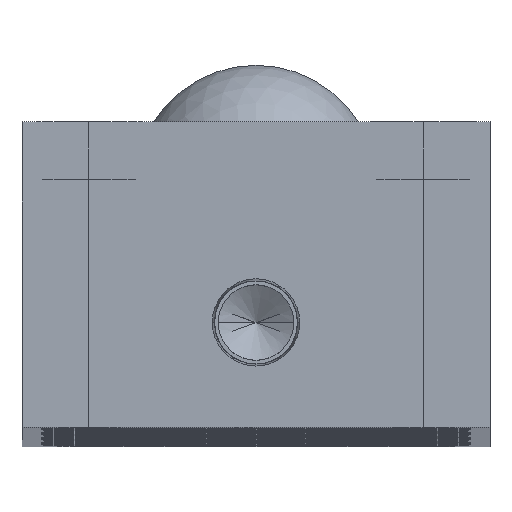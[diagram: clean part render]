
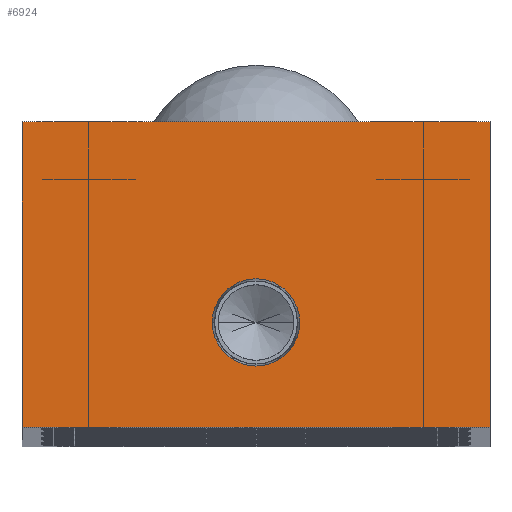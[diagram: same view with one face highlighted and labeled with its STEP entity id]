
A CAD part, top view. The second image highlights one B-rep face of the part: STEP entity #6924.
In plain terms, the highlighted planar face has unit normal (0, 0, 1).
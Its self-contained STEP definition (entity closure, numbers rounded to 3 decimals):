
#563 = CARTESIAN_POINT ( 'NONE',  ( 24.5, 32., 0. ) ) ;
#569 = VECTOR ( 'NONE', #13176, 1000. ) ;
#615 = CARTESIAN_POINT ( 'NONE',  ( 0., 11., 0. ) ) ;
#730 = LINE ( 'NONE', #12902, #21821 ) ;
#2049 = EDGE_CURVE ( 'NONE', #10966, #23015, #11648, .T. ) ;
#2327 = DIRECTION ( 'NONE',  ( 1., 0., 0. ) ) ;
#2709 = DIRECTION ( 'NONE',  ( 0., -1., 0. ) ) ;
#2727 = DIRECTION ( 'NONE',  ( 1., 0., 0. ) ) ;
#3852 = DIRECTION ( 'NONE',  ( -1., 0., 0. ) ) ;
#3853 = EDGE_LOOP ( 'NONE', ( #21563, #21620 ) ) ;
#4744 = EDGE_LOOP ( 'NONE', ( #12773, #16869, #22654, #12414 ) ) ;
#5177 = FACE_OUTER_BOUND ( 'NONE', #4744, .T. ) ;
#5239 = VERTEX_POINT ( 'NONE', #19616 ) ;
#6135 = AXIS2_PLACEMENT_3D ( 'NONE', #22746, #16491, #3852 ) ;
#6157 = LINE ( 'NONE', #563, #569 ) ;
#6583 = VERTEX_POINT ( 'NONE', #21541 ) ;
#6924 = ADVANCED_FACE ( 'NONE', ( #10745, #5177 ), #20627, .F. ) ;
#7226 = DIRECTION ( 'NONE',  ( -1., 0., 0. ) ) ;
#7377 = VECTOR ( 'NONE', #7226, 1000. ) ;
#7518 = EDGE_CURVE ( 'NONE', #9982, #5239, #13721, .T. ) ;
#7648 = CARTESIAN_POINT ( 'NONE',  ( -24.5, 32., 0. ) ) ;
#8008 = CARTESIAN_POINT ( 'NONE',  ( 24.5, 32., 0. ) ) ;
#9982 = VERTEX_POINT ( 'NONE', #27148 ) ;
#10453 = VERTEX_POINT ( 'NONE', #24788 ) ;
#10745 = FACE_BOUND ( 'NONE', #3853, .T. ) ;
#10966 = VERTEX_POINT ( 'NONE', #8008 ) ;
#11360 = DIRECTION ( 'NONE',  ( 0., 0., 1. ) ) ;
#11648 = LINE ( 'NONE', #15709, #7377 ) ;
#11787 = EDGE_CURVE ( 'NONE', #5239, #9982, #13358, .T. ) ;
#12414 = ORIENTED_EDGE ( 'NONE', *, *, #2049, .T. ) ;
#12773 = ORIENTED_EDGE ( 'NONE', *, *, #20310, .T. ) ;
#12902 = CARTESIAN_POINT ( 'NONE',  ( 24.5, 0., 0. ) ) ;
#13176 = DIRECTION ( 'NONE',  ( 0., 1., 0. ) ) ;
#13358 = CIRCLE ( 'NONE', #26248, 4.574 ) ;
#13721 = CIRCLE ( 'NONE', #17829, 4.574 ) ;
#15351 = DIRECTION ( 'NONE',  ( 0., 0., 1. ) ) ;
#15709 = CARTESIAN_POINT ( 'NONE',  ( -24.5, 32., 0. ) ) ;
#16338 = VECTOR ( 'NONE', #2709, 1000. ) ;
#16491 = DIRECTION ( 'NONE',  ( 0., 0., -1. ) ) ;
#16869 = ORIENTED_EDGE ( 'NONE', *, *, #22277, .T. ) ;
#17829 = AXIS2_PLACEMENT_3D ( 'NONE', #24002, #11360, #26115 ) ;
#18484 = EDGE_CURVE ( 'NONE', #6583, #10966, #6157, .T. ) ;
#19559 = CARTESIAN_POINT ( 'NONE',  ( -24.5, 0., 0. ) ) ;
#19616 = CARTESIAN_POINT ( 'NONE',  ( -4.574, 11., 0. ) ) ;
#20310 = EDGE_CURVE ( 'NONE', #23015, #10453, #21924, .T. ) ;
#20627 = PLANE ( 'NONE',  #6135 ) ;
#21541 = CARTESIAN_POINT ( 'NONE',  ( 24.5, 0., 0. ) ) ;
#21563 = ORIENTED_EDGE ( 'NONE', *, *, #7518, .F. ) ;
#21620 = ORIENTED_EDGE ( 'NONE', *, *, #11787, .F. ) ;
#21821 = VECTOR ( 'NONE', #2327, 1000. ) ;
#21924 = LINE ( 'NONE', #19559, #16338 ) ;
#22277 = EDGE_CURVE ( 'NONE', #10453, #6583, #730, .T. ) ;
#22654 = ORIENTED_EDGE ( 'NONE', *, *, #18484, .T. ) ;
#22746 = CARTESIAN_POINT ( 'NONE',  ( 0., 0., 0. ) ) ;
#23015 = VERTEX_POINT ( 'NONE', #7648 ) ;
#24002 = CARTESIAN_POINT ( 'NONE',  ( 0., 11., 0. ) ) ;
#24788 = CARTESIAN_POINT ( 'NONE',  ( -24.5, 0., 0. ) ) ;
#26115 = DIRECTION ( 'NONE',  ( 1., 0., 0. ) ) ;
#26248 = AXIS2_PLACEMENT_3D ( 'NONE', #615, #15351, #2727 ) ;
#27148 = CARTESIAN_POINT ( 'NONE',  ( 4.574, 11., 0. ) ) ;
